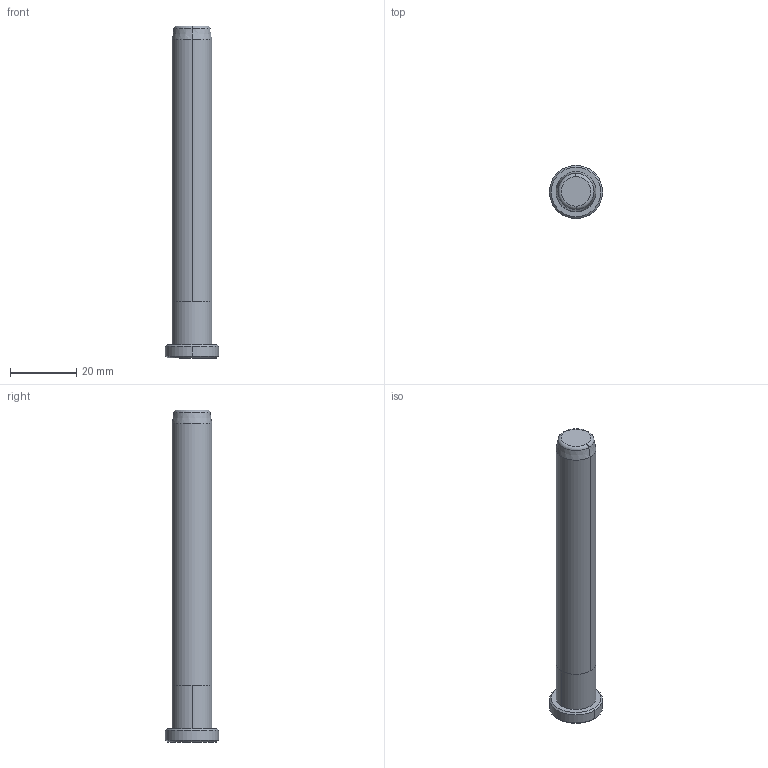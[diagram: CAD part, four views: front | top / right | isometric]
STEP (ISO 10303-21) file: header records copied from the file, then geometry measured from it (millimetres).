
FILE_DESCRIPTION((''),'2;1');
FILE_NAME('B82812100','2018-01-22T',('MANU'),(''),'PRO/ENGINEER BY PARAMETRIC TECHNOLOGY CORPORATION, 2012130','PRO/ENGINEER BY PARAMETRIC TECHNOLOGY CORPORATION, 2012130','');
FILE_SCHEMA(('CONFIG_CONTROL_DESIGN'));
Length unit declared in the file: millimetre
Products named in the file (1): B82812100
Bounding box: 16 x 16 x 100 mm (x, y, z)
Volume: 11598.5 mm3; surface area: 4151.6 mm2
Topology: 1 solids, 1 shells, 18 faces, 34 edges, 20 vertices
Faces by surface type: cone 6, cylinder 6, plane 4, torus 2
Entity records: 494 total; most frequent: DIRECTION 92, CARTESIAN_POINT 72, ORIENTED_EDGE 68, AXIS2_PLACEMENT_3D 40, EDGE_CURVE 34, CIRCLE 22, VERTEX_POINT 20, EDGE_LOOP 20
